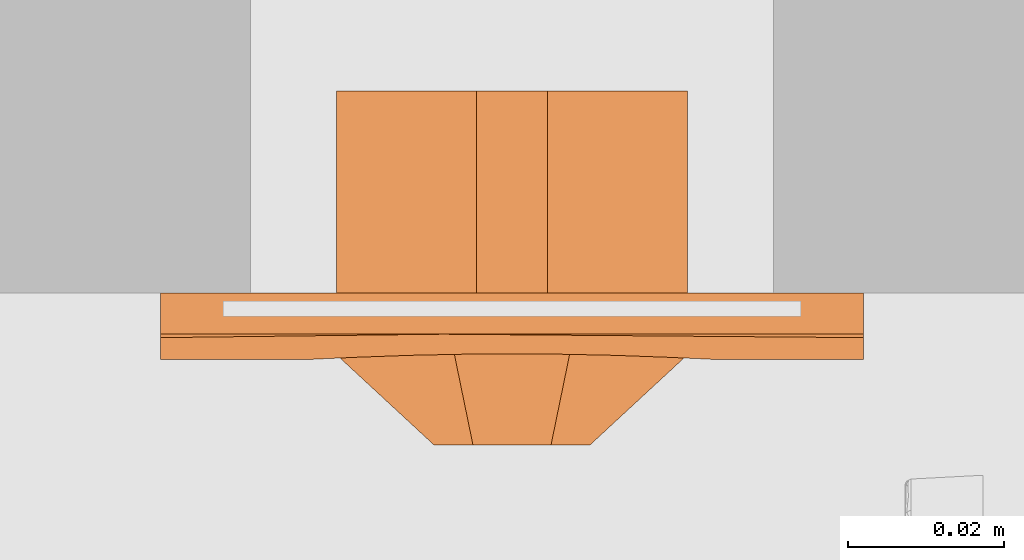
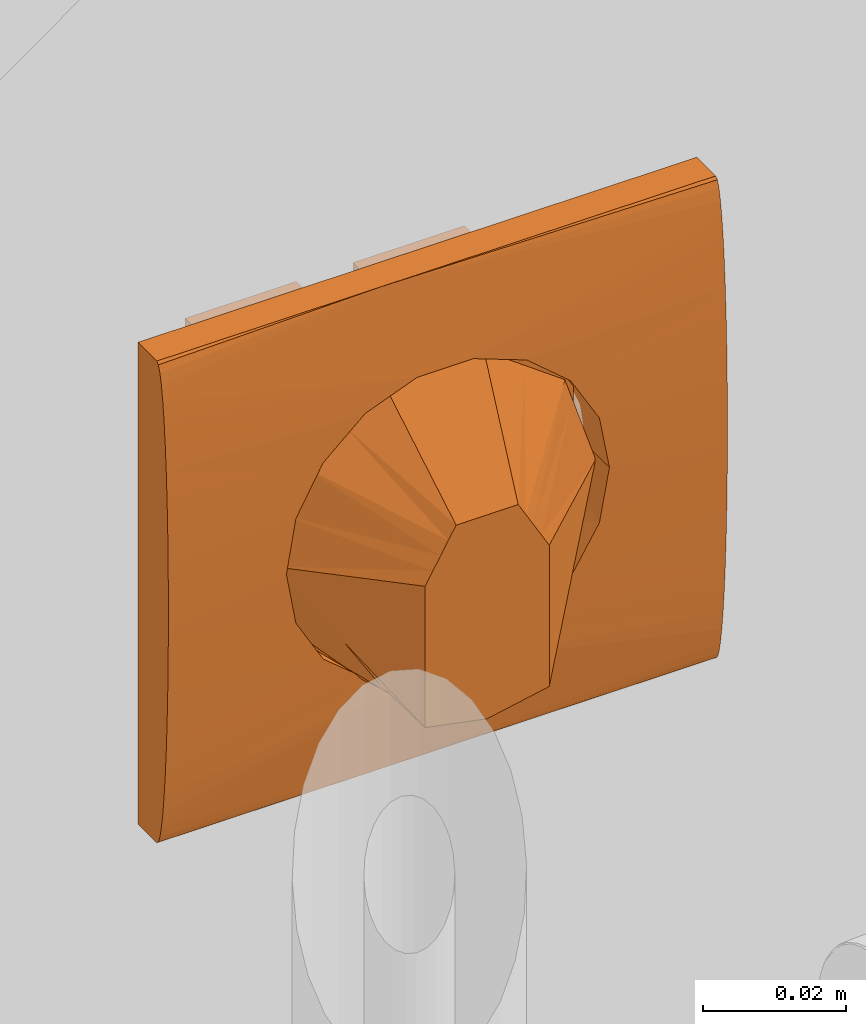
# One storey, part 32 of 32: 2 proxies.
"""IFC2X3 building model written with IfcOpenShell, lengths in metres."""

from ifc_helpers import new_model, entity, si_unit, converted_unit, derived_unit, direction, frame, origin, place, context, subcontext, project, spatial, faceted_brep, source, transform, mapped, material, material_list, type_object, type_shapes, element, save


model = new_model("IFC2X3")

# Units and contexts
model_context = context("Model", 3, precision=1e-05, world=origin(), true_north=direction((6.123031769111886e-17, 1.0)))
body_context = subcontext(model_context, "Body", "Model", "MODEL_VIEW")
ifc_project = project(units=[si_unit("LENGTHUNIT", "METRE"), si_unit("AREAUNIT", "SQUARE_METRE"), si_unit("VOLUMEUNIT", "CUBIC_METRE"), converted_unit("PLANEANGLEUNIT", "DEGREE", entity("IfcPlaneAngleMeasure", 0.017453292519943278), si_unit("PLANEANGLEUNIT", "RADIAN"), dimensions=[0, 0, 0, 0, 0, 0, 0]), si_unit("MASSUNIT", "GRAM", prefix="KILO"), derived_unit("MASSDENSITYUNIT", [(si_unit("MASSUNIT", "GRAM", prefix="KILO"), 1), (si_unit("LENGTHUNIT", "METRE"), -3)]), derived_unit("IONCONCENTRATIONUNIT", [(si_unit("MASSUNIT", "GRAM", prefix="KILO"), 1), (si_unit("LENGTHUNIT", "METRE"), -3)]), derived_unit("MOMENTOFINERTIAUNIT", [(si_unit("LENGTHUNIT", "METRE"), 4)]), si_unit("TIMEUNIT", "SECOND"), si_unit("FREQUENCYUNIT", "HERTZ"), si_unit("THERMODYNAMICTEMPERATUREUNIT", "DEGREE_CELSIUS"), derived_unit("THERMALTRANSMITTANCEUNIT", [(si_unit("MASSUNIT", "GRAM", prefix="KILO"), 1), (si_unit("THERMODYNAMICTEMPERATUREUNIT", "KELVIN"), -1), (si_unit("TIMEUNIT", "SECOND"), -3)]), derived_unit("THERMALCONDUCTANCEUNIT", [(si_unit("MASSUNIT", "GRAM", prefix="KILO"), 1), (si_unit("THERMODYNAMICTEMPERATUREUNIT", "KELVIN"), -1), (si_unit("TIMEUNIT", "SECOND"), -3), (si_unit("LENGTHUNIT", "METRE"), 1)]), derived_unit("VOLUMETRICFLOWRATEUNIT", [(si_unit("LENGTHUNIT", "METRE", prefix="DECI"), 3), (si_unit("TIMEUNIT", "SECOND"), -1)]), derived_unit("MASSFLOWRATEUNIT", [(si_unit("MASSUNIT", "GRAM", prefix="KILO"), 1), (si_unit("TIMEUNIT", "SECOND"), -1)]), derived_unit("ROTATIONALFREQUENCYUNIT", [(si_unit("TIMEUNIT", "SECOND"), -1)]), si_unit("ELECTRICCURRENTUNIT", "AMPERE"), si_unit("ELECTRICVOLTAGEUNIT", "VOLT"), si_unit("POWERUNIT", "WATT"), si_unit("FORCEUNIT", "NEWTON", prefix="KILO"), si_unit("ILLUMINANCEUNIT", "LUX"), si_unit("LUMINOUSFLUXUNIT", "LUMEN"), si_unit("LUMINOUSINTENSITYUNIT", "CANDELA"), si_unit("ENERGYUNIT", "JOULE"), derived_unit("USERDEFINED", [(si_unit("MASSUNIT", "GRAM", prefix="KILO"), -1), (si_unit("LENGTHUNIT", "METRE"), -2), (si_unit("TIMEUNIT", "SECOND"), 3), (si_unit("LUMINOUSFLUXUNIT", "LUMEN"), 1)]), derived_unit("USERDEFINED", [(si_unit("MASSUNIT", "GRAM", prefix="KILO"), 1), (si_unit("TIMEUNIT", "SECOND"), -3), (si_unit("LENGTHUNIT", "METRE"), 3), (si_unit("ELECTRICCURRENTUNIT", "AMPERE"), -2)]), derived_unit("SOUNDPOWERUNIT", [(si_unit("MASSUNIT", "GRAM", prefix="KILO"), 1), (si_unit("TIMEUNIT", "SECOND"), -3), (si_unit("LENGTHUNIT", "METRE"), 2)]), derived_unit("SOUNDPRESSUREUNIT", [(si_unit("MASSUNIT", "GRAM", prefix="KILO"), 1), (si_unit("LENGTHUNIT", "METRE"), -1), (si_unit("TIMEUNIT", "SECOND"), -2)]), derived_unit("LINEARVELOCITYUNIT", [(si_unit("LENGTHUNIT", "METRE"), 1), (si_unit("TIMEUNIT", "SECOND"), -1)]), si_unit("PRESSUREUNIT", "PASCAL"), derived_unit("USERDEFINED", [(si_unit("MASSUNIT", "GRAM", prefix="KILO"), 1), (si_unit("LENGTHUNIT", "METRE"), -2), (si_unit("TIMEUNIT", "SECOND"), -2)]), derived_unit("LINEARFORCEUNIT", [(si_unit("MASSUNIT", "GRAM", prefix="KILO"), 1), (si_unit("TIMEUNIT", "SECOND"), -2)]), derived_unit("PLANARFORCEUNIT", [(si_unit("MASSUNIT", "GRAM", prefix="KILO"), 1), (si_unit("LENGTHUNIT", "METRE"), -1), (si_unit("TIMEUNIT", "SECOND"), -2)]), derived_unit("SPECIFICHEATCAPACITYUNIT", [(si_unit("THERMODYNAMICTEMPERATUREUNIT", "KELVIN"), -1), (si_unit("LENGTHUNIT", "METRE"), 2), (si_unit("TIMEUNIT", "SECOND"), -2)]), derived_unit("HEATFLUXDENSITYUNIT", [(si_unit("MASSUNIT", "GRAM", prefix="KILO"), 1), (si_unit("TIMEUNIT", "SECOND"), -3)]), derived_unit("HEATINGVALUEUNIT", [(si_unit("LENGTHUNIT", "METRE"), 2), (si_unit("TIMEUNIT", "SECOND"), -2)]), derived_unit("VAPORPERMEABILITYUNIT", [(si_unit("LENGTHUNIT", "METRE"), -1), (si_unit("TIMEUNIT", "SECOND"), 1)]), derived_unit("DYNAMICVISCOSITYUNIT", [(si_unit("MASSUNIT", "GRAM", prefix="KILO"), 1), (si_unit("TIMEUNIT", "SECOND"), -1), (si_unit("LENGTHUNIT", "METRE"), -1)]), derived_unit("THERMALEXPANSIONCOEFFICIENTUNIT", [(si_unit("THERMODYNAMICTEMPERATUREUNIT", "KELVIN"), -1)]), derived_unit("MODULUSOFELASTICITYUNIT", [(si_unit("MASSUNIT", "GRAM", prefix="KILO"), 1), (si_unit("LENGTHUNIT", "METRE"), -1), (si_unit("TIMEUNIT", "SECOND"), -2)]), derived_unit("ISOTHERMALMOISTURECAPACITYUNIT", [(si_unit("MASSUNIT", "GRAM", prefix="KILO"), -1), (si_unit("LENGTHUNIT", "METRE"), 3)]), derived_unit("MOISTUREDIFFUSIVITYUNIT", [(si_unit("TIMEUNIT", "SECOND"), -1), (si_unit("LENGTHUNIT", "METRE"), 2)]), derived_unit("MASSPERLENGTHUNIT", [(si_unit("MASSUNIT", "GRAM", prefix="KILO"), 1), (si_unit("LENGTHUNIT", "METRE"), -1)]), derived_unit("THERMALRESISTANCEUNIT", [(si_unit("MASSUNIT", "GRAM", prefix="KILO"), -1), (si_unit("TIMEUNIT", "SECOND"), 3), (si_unit("THERMODYNAMICTEMPERATUREUNIT", "KELVIN"), 1)]), derived_unit("ACCELERATIONUNIT", [(si_unit("LENGTHUNIT", "METRE"), 1), (si_unit("TIMEUNIT", "SECOND"), -2)]), derived_unit("ANGULARVELOCITYUNIT", [(si_unit("TIMEUNIT", "SECOND"), -1), (si_unit("PLANEANGLEUNIT", "RADIAN"), 1)]), derived_unit("LINEARSTIFFNESSUNIT", [(si_unit("MASSUNIT", "GRAM", prefix="KILO"), 1), (si_unit("TIMEUNIT", "SECOND"), -2)]), derived_unit("WARPINGCONSTANTUNIT", [(si_unit("LENGTHUNIT", "METRE"), 6)]), derived_unit("LINEARMOMENTUNIT", [(si_unit("MASSUNIT", "GRAM", prefix="KILO"), 1), (si_unit("LENGTHUNIT", "METRE"), 1), (si_unit("TIMEUNIT", "SECOND"), -2)]), derived_unit("TORQUEUNIT", [(si_unit("MASSUNIT", "GRAM", prefix="KILO"), 1), (si_unit("LENGTHUNIT", "METRE"), 2), (si_unit("TIMEUNIT", "SECOND"), -2)])], contexts=[model_context])

# Site, building, storey
site_placement = place(None, origin())
site = spatial("IfcSite", under=ifc_project, at=site_placement, Name="Default", CompositionType="ELEMENT")
building_placement = place(site_placement, origin())
building = spatial("IfcBuilding", under=site, at=building_placement, CompositionType="ELEMENT")
storey_placement = place(building_placement, origin())
storey = spatial("IfcBuildingStorey", under=building, at=storey_placement, Name="Niveau 0", CompositionType="ELEMENT", Elevation=-1.949160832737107e-14)

# Proxies
ifc_material_1 = material(Name="Plastique, blanc opaque")
ifc_material_2 = material(Name="Plastique, noir opaque")
ifc_material_list = material_list([ifc_material_1, ifc_material_2])
building_element_proxy_type_1 = type_object("IfcBuildingElementProxyType", Name="Legrand Sorties de câbles:Prise courant", PredefinedType="NOTDEFINED", material=ifc_material_list)
shared_shape_1 = source(origin(), body_context, "Body", "Brep", [
    faceted_brep([(0.1312499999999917, 0.11993877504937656, -1.7674673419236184), (0.1324999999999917, 0.11993877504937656, -1.7696324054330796), (0.13374999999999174, 0.11993877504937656, -1.7717974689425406), (0.1349999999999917, 0.11993877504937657, -1.7739625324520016), (0.13499999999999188, 0.11993877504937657, -1.7980031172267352), (0.13257199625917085, 0.11993877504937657, -1.7984879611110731), (0.12999999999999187, 0.11993877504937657, -1.7990015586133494), (0.1274999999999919, 0.11993877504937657, -1.7995007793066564), (0.1262499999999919, 0.11993877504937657, -1.7997503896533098), (0.12499999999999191, 0.11993877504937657, -1.7999999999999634), (0.12374999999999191, 0.11993877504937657, -1.7997503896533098), (0.12249999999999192, 0.11993877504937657, -1.7995007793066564), (0.1199999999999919, 0.11993877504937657, -1.7990015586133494), (0.11742800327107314, 0.11993877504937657, -1.7984879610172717), (0.11499999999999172, 0.11993877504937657, -1.7980031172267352), (0.11499999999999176, 0.11993877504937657, -1.7739625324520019), (0.11624999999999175, 0.11993877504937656, -1.7717974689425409), (0.11749999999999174, 0.11993877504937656, -1.7696324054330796), (0.11874999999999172, 0.11993877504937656, -1.7674673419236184), (0.11999999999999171, 0.11993877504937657, -1.7653022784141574), (0.12249999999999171, 0.11993877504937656, -1.7653022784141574), (0.12499999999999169, 0.11993877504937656, -1.7653022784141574), (0.1274999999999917, 0.11993877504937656, -1.7653022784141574), (0.1299999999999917, 0.11993877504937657, -1.7653022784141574), (0.11899999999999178, 0.10509965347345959, -1.7736158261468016), (0.13100881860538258, 0.10509965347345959, -1.7736158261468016), (0.13100881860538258, 0.10509965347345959, -1.7992971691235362), (0.13543286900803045, 0.10509965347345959, -1.7971340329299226), (0.1413044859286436, 0.10509965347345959, -1.794263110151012), (0.14486650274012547, 0.10509965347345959, -1.7897929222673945), (0.14842851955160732, 0.10509965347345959, -1.7853227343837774), (0.1497329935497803, 0.10509965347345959, -1.7796426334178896), (0.15103746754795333, 0.10509965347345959, -1.7739625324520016), (0.14855111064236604, 0.10509965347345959, -1.7663103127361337), (0.14606475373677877, 0.10509965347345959, -1.7586580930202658), (0.13955538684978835, 0.10509965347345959, -1.7539287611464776), (0.13304601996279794, 0.10509965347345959, -1.7491994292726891), (0.12499999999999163, 0.10509965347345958, -1.7491994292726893), (0.11695398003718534, 0.10509965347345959, -1.7491994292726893), (0.11044461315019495, 0.10509965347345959, -1.7539287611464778), (0.1039352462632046, 0.10509965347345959, -1.7586580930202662), (0.10269206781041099, 0.10509965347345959, -1.7624842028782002), (0.10144888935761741, 0.10509965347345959, -1.7663103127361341), (0.09896253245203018, 0.10509965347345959, -1.7739625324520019), (0.1002698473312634, 0.10509965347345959, -1.7796484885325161), (0.10157716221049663, 0.10509965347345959, -1.7853344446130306), (0.10511994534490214, 0.10509965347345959, -1.7897855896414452), (0.10866272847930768, 0.10509965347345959, -1.7942367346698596), (0.11457764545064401, 0.10509965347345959, -1.7971334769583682), (0.11899999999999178, 0.10509965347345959, -1.7992992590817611), (0.11070364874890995, 0.1159634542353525, -1.79156277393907), (0.10640729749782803, 0.11198813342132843, -1.7851224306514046), (0.11073321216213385, 0.11467883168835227, -1.792373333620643), (0.13100881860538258, 0.1085342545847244, -1.7991906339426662), (0.1366473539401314, 0.11098839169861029, -1.7963444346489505), (0.11899999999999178, 0.10853425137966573, -1.7991930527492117), (0.1133638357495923, 0.11097206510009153, -1.7963554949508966), (0.11936587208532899, 0.11403102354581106, -1.7990939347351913), (0.11744997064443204, 0.11574866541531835, -1.7982196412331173), (0.1204105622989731, 0.11583271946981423, -1.7993660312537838), (0.1392664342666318, 0.11467932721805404, -1.7923735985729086), (0.1392963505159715, 0.11596345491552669, -1.7915627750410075), (0.1435927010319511, 0.11198813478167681, -1.7851224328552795), (0.10453255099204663, 0.1092614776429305, -1.785680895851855), (0.1325405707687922, 0.11575698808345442, -1.7982239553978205), (0.1306342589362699, 0.11403066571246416, -1.7990939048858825), (0.14256159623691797, 0.10975689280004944, -1.7908354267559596), (0.12200277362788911, 0.11716562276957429, -1.7997287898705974), (0.1280007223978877, 0.11716360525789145, -1.7997281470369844), (0.12958879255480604, 0.11583348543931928, -1.7993662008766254), (0.10742241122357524, 0.10974873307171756, -1.7908181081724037), (0.11296266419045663, 0.11447366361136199, -1.7951906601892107), (0.1239564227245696, 0.11787641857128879, -1.799967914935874), (0.13100881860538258, 0.11196786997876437, -1.7990560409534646), (0.12604238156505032, 0.11787662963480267, -1.7999679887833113), (0.14546434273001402, 0.10926461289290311, -1.7856834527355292), (0.13701167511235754, 0.11449847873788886, -1.795208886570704), (0.11899999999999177, 0.11196786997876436, -1.7990588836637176), (0.12075735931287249, 0.11621051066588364, -1.7736158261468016), (0.12199999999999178, 0.11716402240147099, -1.7736158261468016), (0.12344708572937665, 0.11776342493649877, -1.7736158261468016), (0.12499999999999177, 0.11796786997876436, -1.7736158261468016), (0.1265529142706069, 0.11776342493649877, -1.7736158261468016), (0.12799999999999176, 0.11716402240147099, -1.7736158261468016), (0.12924264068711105, 0.11621051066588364, -1.7736158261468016), (0.1301961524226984, 0.11496786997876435, -1.7736158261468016), (0.13079555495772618, 0.11352078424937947, -1.7736158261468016), (0.13100881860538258, 0.11196786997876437, -1.7736158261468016), (0.11899999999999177, 0.11196786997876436, -1.7736158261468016), (0.11920444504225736, 0.11352078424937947, -1.7736158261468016), (0.11980384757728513, 0.11496786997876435, -1.7736158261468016)], [[[0, 1, 2, 3, 4, 5, 6, 7, 8, 9, 10, 11, 12, 13, 14, 15, 16, 17, 18, 19, 20, 21, 22, 23]], [[24, 25, 26, 27, 28, 29, 30, 31, 32, 33, 34, 35, 36, 37, 38, 39, 40, 41, 42, 43, 44, 45, 46, 47, 48, 49]], [[15, 14, 50, 51, 43]], [[13, 52, 14]], [[27, 26, 53]], [[54, 27, 53]], [[55, 48, 56]], [[57, 58, 59]], [[60, 4, 61, 62]], [[43, 51, 63]], [[54, 28, 27]], [[64, 54, 65]], [[54, 66, 29]], [[59, 11, 67]], [[68, 7, 69]], [[64, 65, 69]], [[56, 46, 70]], [[12, 58, 71]], [[67, 10, 72]], [[73, 65, 54]], [[68, 8, 7]], [[55, 49, 48]], [[52, 63, 51]], [[53, 73, 54]], [[48, 47, 56]], [[74, 9, 8]], [[60, 75, 66]], [[13, 71, 52]], [[60, 76, 5]], [[45, 63, 70]], [[55, 56, 77]], [[5, 76, 6]], [[12, 71, 13]], [[67, 11, 10]], [[9, 74, 72]], [[8, 68, 74]], [[72, 10, 9]], [[57, 77, 56]], [[11, 59, 58]], [[54, 64, 76]], [[57, 56, 58]], [[6, 64, 7]], [[76, 60, 66]], [[75, 60, 62]], [[75, 32, 31, 30]], [[32, 75, 62]], [[52, 51, 50, 14]], [[75, 30, 66]], [[29, 28, 54]], [[54, 76, 66]], [[66, 30, 29]], [[70, 63, 52]], [[70, 52, 71]], [[63, 45, 44, 43]], [[71, 56, 70]], [[7, 64, 69]], [[46, 56, 47]], [[46, 45, 70]], [[76, 64, 6]], [[71, 58, 56]], [[11, 58, 12]], [[4, 60, 5]], [[3, 32, 62, 61, 4]], [[35, 0, 23]], [[34, 0, 35]], [[1, 34, 33]], [[34, 1, 0]], [[33, 2, 1]], [[39, 18, 40]], [[36, 23, 22, 21, 20, 19, 38, 37]], [[19, 39, 38]], [[43, 16, 15]], [[3, 2, 32]], [[18, 39, 19]], [[16, 43, 42, 41]], [[32, 2, 33]], [[17, 41, 40]], [[23, 36, 35]], [[16, 41, 17]], [[17, 40, 18]], [[78, 79, 80, 81, 82, 83, 84, 85, 86, 87, 25, 24, 88, 89, 90]], [[86, 65, 73]], [[68, 69, 83]], [[74, 68, 82]], [[85, 69, 65]], [[86, 85, 65]], [[73, 87, 86]], [[84, 83, 69]], [[69, 85, 84]], [[83, 82, 68]], [[82, 81, 74]], [[72, 80, 67]], [[67, 79, 59]], [[77, 57, 89]], [[90, 57, 59]], [[88, 77, 89]], [[80, 79, 67]], [[72, 81, 80]], [[78, 90, 59]], [[59, 79, 78]], [[90, 89, 57]], [[74, 81, 72]], [[55, 77, 88, 24, 49]], [[53, 26, 25, 87, 73]]]),
    faceted_brep([(0.1295689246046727, 0.0746, -1.751462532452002), (0.1295689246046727, 0.0746, -1.7585551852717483), (0.13100881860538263, 0.0746, -1.7599950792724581), (0.13100881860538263, 0.0746, -1.7832874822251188), (0.12499999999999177, 0.0746, -1.7832874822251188), (0.11899118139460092, 0.0746, -1.7832874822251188), (0.11899118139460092, 0.0746, -1.7599950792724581), (0.12043107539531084, 0.0746, -1.7585551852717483), (0.12043107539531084, 0.0746, -1.751462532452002), (0.10249999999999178, 0.0746, -1.751462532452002), (0.10249999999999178, 0.0746, -1.796462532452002), (0.14749999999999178, 0.0746, -1.796462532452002), (0.14749999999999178, 0.0746, -1.751462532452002), (0.1295689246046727, 0.10509965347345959, -1.751462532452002), (0.14749999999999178, 0.10509965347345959, -1.751462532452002), (0.14749999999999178, 0.10509965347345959, -1.796462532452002), (0.10249999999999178, 0.10509965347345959, -1.796462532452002), (0.10249999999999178, 0.10509965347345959, -1.751462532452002), (0.12043107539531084, 0.10509965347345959, -1.751462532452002), (0.12043107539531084, 0.10509965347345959, -1.7585551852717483), (0.11899118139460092, 0.10509965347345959, -1.7599950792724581), (0.11899118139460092, 0.10509965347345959, -1.7832874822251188), (0.12499999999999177, 0.10509965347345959, -1.7832874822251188), (0.13100881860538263, 0.10509965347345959, -1.7832874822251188), (0.13100881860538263, 0.10509965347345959, -1.7599950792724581), (0.1295689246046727, 0.10509965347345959, -1.7585551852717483)], [[[0, 1, 2, 3, 4, 5, 6, 7, 8, 9, 10, 11, 12]], [[13, 14, 15, 16, 17, 18, 19, 20, 21, 22, 23, 24, 25]], [[10, 9, 17, 16]], [[11, 10, 16, 15]], [[12, 11, 15, 14]], [[0, 12, 14, 13]], [[1, 0, 13, 25]], [[2, 1, 25, 24]], [[3, 2, 24, 23]], [[4, 3, 23, 22]], [[5, 4, 22, 21]], [[6, 5, 21, 20]], [[7, 6, 20, 19]], [[8, 7, 19, 18]], [[9, 8, 18, 17]]]),
])
type_shapes(building_element_proxy_type_1, [shared_shape_1])
proxy_1_placement = place(storey_placement, frame((-14.451077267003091, 2.969026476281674, 3.823962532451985), z_axis=(0.0, 0.0, 1.0), x_axis=(-1.0, 0.0, 0.0)))
element("IfcBuildingElementProxy", 1, at=proxy_1_placement, inside=storey, type_object=building_element_proxy_type_1, material=ifc_material_list, Name="Legrand Sorties de câbles:Prise courant", ObjectType="Legrand Sorties de câbles:Prise courant", context=body_context, shape_type="MappedRepresentation", body=[
    mapped(shared_shape_1, transform((0.0, 0.0, 0.0), scale=1.0)),
])
building_element_proxy_type_2 = type_object("IfcBuildingElementProxyType", Name="Legrand plaque2:1 poste", PredefinedType="NOTDEFINED", material=ifc_material_1)
shared_shape_2 = source(origin(), body_context, "Body", "Brep", [
    faceted_brep([(0.1699999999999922, 0.10663792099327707, -1.7972310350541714), (0.1699999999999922, 0.10705393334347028, -1.7953570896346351), (0.1699999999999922, 0.10744593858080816, -1.7927826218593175), (0.1699999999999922, 0.10780663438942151, -1.7895555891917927), (0.1699999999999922, 0.10812930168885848, -1.7857361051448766), (0.1699999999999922, 0.1084079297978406, -1.781395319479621), (0.1699999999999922, 0.10863732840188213, -1.7766140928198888), (0.1699999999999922, 0.10881322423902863, -1.771481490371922), (0.1699999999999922, 0.10893234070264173, -1.7660931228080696), (0.1699999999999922, 0.10899245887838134, -1.760549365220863), (0.1699999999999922, 0.10899245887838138, -1.7549534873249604), (0.1699999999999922, 0.10893234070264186, -1.7494097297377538), (0.1699999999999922, 0.10881322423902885, -1.7440213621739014), (0.1699999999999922, 0.10863732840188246, -1.7388887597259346), (0.1699999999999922, 0.108407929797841, -1.7341075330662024), (0.1699999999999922, 0.10812930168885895, -1.7297667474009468), (0.1699999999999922, 0.10780663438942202, -1.7259472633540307), (0.1699999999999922, 0.10744593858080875, -1.7227202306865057), (0.1699999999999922, 0.10705393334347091, -1.720145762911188), (0.1699999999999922, 0.10663792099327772, -1.718271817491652), (0.1699999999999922, 0.10620565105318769, -1.717133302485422), (0.1699999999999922, 0.10576517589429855, -1.7167514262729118), (0.1699999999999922, 0.10050000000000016, -1.7167514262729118), (0.1699999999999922, 0.10050000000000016, -1.7987514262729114), (0.1699999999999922, 0.10576517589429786, -1.7987514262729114), (0.1699999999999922, 0.10620565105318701, -1.7983695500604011), (0.07999999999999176, 0.10893234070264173, -1.7660931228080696), (0.07999999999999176, 0.10881322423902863, -1.771481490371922), (0.07999999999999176, 0.10863732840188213, -1.7766140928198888), (0.07999999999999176, 0.1084079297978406, -1.781395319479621), (0.07999999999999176, 0.10812930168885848, -1.7857361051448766), (0.07999999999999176, 0.10780663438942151, -1.7895555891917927), (0.07999999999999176, 0.10744593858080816, -1.7927826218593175), (0.07999999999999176, 0.10705393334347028, -1.7953570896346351), (0.07999999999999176, 0.10663792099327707, -1.7972310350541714), (0.07999999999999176, 0.10620565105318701, -1.7983695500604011), (0.07999999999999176, 0.10576517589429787, -1.7987514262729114), (0.07999999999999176, 0.10050000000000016, -1.7987514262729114), (0.07999999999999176, 0.10050000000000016, -1.7167514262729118), (0.07999999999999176, 0.10576517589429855, -1.7167514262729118), (0.07999999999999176, 0.10620565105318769, -1.717133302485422), (0.07999999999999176, 0.10663792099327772, -1.718271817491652), (0.07999999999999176, 0.10705393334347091, -1.720145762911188), (0.07999999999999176, 0.10744593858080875, -1.7227202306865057), (0.07999999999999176, 0.10780663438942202, -1.7259472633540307), (0.07999999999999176, 0.10812930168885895, -1.7297667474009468), (0.07999999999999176, 0.108407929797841, -1.7341075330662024), (0.07999999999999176, 0.10863732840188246, -1.7388887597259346), (0.07999999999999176, 0.10881322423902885, -1.7440213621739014), (0.07999999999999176, 0.10893234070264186, -1.7494097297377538), (0.07999999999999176, 0.10899245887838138, -1.7549534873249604), (0.07999999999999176, 0.10899245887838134, -1.760549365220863), (0.13383419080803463, 0.10576517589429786, -1.7987514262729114), (0.1295157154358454, 0.10829163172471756, -1.783356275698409), (0.12048889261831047, 0.10829158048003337, -1.7833570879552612), (0.1338341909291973, 0.10576517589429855, -1.7167514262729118), (0.13799797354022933, 0.10846845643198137, -1.7802692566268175), (0.14491763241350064, 0.10871907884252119, -1.7744633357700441), (0.14942915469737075, 0.10892286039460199, -1.7666517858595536), (0.14145780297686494, 0.10859376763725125, -1.7773662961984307), (0.15021457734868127, 0.10896143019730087, -1.7622016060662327), (0.15099999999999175, 0.10899999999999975, -1.7577514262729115), (0.11200101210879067, 0.10846848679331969, -1.7802686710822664), (0.11624495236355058, 0.10838003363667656, -1.7818128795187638), (0.10057214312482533, 0.10892279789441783, -1.7666553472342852), (0.10509052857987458, 0.1087187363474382, -1.774473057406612), (0.09899999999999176, 0.10899999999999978, -1.7577514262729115), (0.09978607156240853, 0.1089613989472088, -1.7622033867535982), (0.14942915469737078, 0.10892286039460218, -1.7488510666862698), (0.14491763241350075, 0.10871907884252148, -1.7410395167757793), (0.14145780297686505, 0.10859376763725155, -1.7381365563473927), (0.1379979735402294, 0.10846845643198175, -1.7352335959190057), (0.12951571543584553, 0.10829163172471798, -1.7321465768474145), (0.1005721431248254, 0.10892279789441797, -1.748847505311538), (0.09978607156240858, 0.10896139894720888, -1.7532994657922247), (0.10509052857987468, 0.10871873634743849, -1.741029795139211), (0.1120010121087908, 0.10846848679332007, -1.735234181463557), (0.12048889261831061, 0.10829158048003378, -1.7321457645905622), (0.11624495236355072, 0.10838003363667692, -1.7336899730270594), (0.15021457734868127, 0.10896143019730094, -1.7533012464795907), (0.14751666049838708, 0.10050000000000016, -1.7447514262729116), (0.1501140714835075, 0.10050000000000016, -1.7510221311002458), (0.1433847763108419, 0.10050000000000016, -1.7393666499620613), (0.15099999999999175, 0.10050000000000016, -1.757751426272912), (0.13799999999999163, 0.10050000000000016, -1.7352347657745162), (0.13172929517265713, 0.10050000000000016, -1.7326373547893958), (0.12499999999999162, 0.10050000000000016, -1.7317514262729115), (0.11827070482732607, 0.10050000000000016, -1.7326373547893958), (0.11199999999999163, 0.10050000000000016, -1.7352347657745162), (0.10661522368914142, 0.10050000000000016, -1.7393666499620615), (0.10248333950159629, 0.10050000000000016, -1.7447514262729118), (0.09988592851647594, 0.10050000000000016, -1.7510221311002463), (0.09899999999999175, 0.10050000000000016, -1.757751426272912), (0.09988592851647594, 0.10050000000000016, -1.764480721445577), (0.10248333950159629, 0.10050000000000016, -1.7707514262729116), (0.10661522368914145, 0.10050000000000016, -1.7761362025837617), (0.11199999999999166, 0.10050000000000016, -1.780268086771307), (0.11827070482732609, 0.10050000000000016, -1.7828654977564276), (0.12499999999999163, 0.10050000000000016, -1.7837514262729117), (0.1501140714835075, 0.10050000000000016, -1.7644807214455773), (0.1475166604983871, 0.10050000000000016, -1.7707514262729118), (0.1433847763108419, 0.10050000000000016, -1.776136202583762), (0.13799999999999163, 0.10050000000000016, -1.7802680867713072), (0.1317292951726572, 0.10050000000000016, -1.7828654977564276)], [[[0, 1, 2, 3, 4, 5, 6, 7, 8, 9, 10, 11, 12, 13, 14, 15, 16, 17, 18, 19, 20, 21, 22, 23, 24, 25]], [[26, 27, 28, 29, 30, 31, 32, 33, 34, 35, 36, 37, 38, 39, 40, 41, 42, 43, 44, 45, 46, 47, 48, 49, 50, 51]], [[24, 23, 37, 36, 52]], [[0, 52, 1]], [[53, 1, 52]], [[54, 53, 52]], [[3, 2, 53]], [[55, 42, 41]], [[56, 5, 4]], [[56, 4, 3]], [[1, 53, 2]], [[7, 6, 57]], [[8, 7, 58]], [[9, 8, 58]], [[5, 56, 59, 57]], [[9, 58, 60, 61]], [[58, 7, 57]], [[61, 10, 9]], [[6, 5, 57]], [[3, 53, 56]], [[55, 21, 20]], [[39, 55, 40]], [[54, 32, 31]], [[31, 62, 63, 54]], [[30, 62, 31]], [[54, 33, 32]], [[52, 36, 35]], [[52, 25, 24]], [[35, 34, 52]], [[52, 34, 33]], [[0, 25, 52]], [[30, 29, 62]], [[27, 64, 65]], [[29, 65, 62]], [[65, 29, 28]], [[27, 26, 64]], [[65, 28, 27]], [[64, 26, 51]], [[51, 66, 67, 64]], [[33, 54, 52]], [[12, 11, 68]], [[13, 12, 69]], [[14, 13, 69]], [[68, 11, 10]], [[69, 12, 68]], [[14, 69, 70, 71]], [[71, 15, 14]], [[19, 55, 20]], [[18, 17, 72]], [[41, 40, 55]], [[72, 16, 71]], [[15, 71, 16]], [[72, 17, 16]], [[19, 18, 55]], [[50, 73, 74, 66]], [[46, 75, 47]], [[48, 75, 73]], [[49, 73, 50]], [[48, 73, 49]], [[48, 47, 75]], [[46, 76, 75]], [[51, 50, 66]], [[46, 45, 76]], [[44, 77, 78, 76]], [[44, 76, 45]], [[44, 43, 77]], [[72, 77, 55]], [[43, 42, 77]], [[18, 72, 55]], [[55, 77, 42]], [[10, 61, 79, 68]], [[22, 21, 55, 39, 38]], [[22, 80, 81]], [[80, 22, 82]], [[22, 81, 83]], [[84, 82, 22]], [[85, 84, 22]], [[86, 85, 22]], [[22, 38, 86]], [[83, 23, 22]], [[87, 86, 38]], [[88, 87, 38]], [[89, 88, 38]], [[38, 90, 89]], [[90, 38, 91]], [[92, 91, 38]], [[38, 37, 92]], [[93, 92, 37]], [[94, 93, 37]], [[37, 95, 94]], [[95, 37, 96]], [[97, 96, 37]], [[98, 97, 37]], [[98, 37, 23]], [[23, 83, 99]], [[23, 99, 100]], [[100, 101, 23]], [[101, 102, 23]], [[102, 103, 23]], [[23, 103, 98]], [[93, 64, 67]], [[93, 67, 92]], [[97, 54, 63]], [[97, 63, 96]], [[65, 64, 94]], [[83, 61, 60]], [[62, 65, 95]], [[93, 94, 64]], [[92, 67, 66]], [[95, 96, 62]], [[65, 94, 95]], [[56, 102, 59]], [[97, 98, 54]], [[62, 96, 63]], [[101, 57, 59]], [[101, 59, 102]], [[56, 53, 103]], [[60, 58, 99]], [[100, 58, 57]], [[103, 102, 56]], [[53, 98, 103]], [[101, 100, 57]], [[99, 83, 60]], [[100, 99, 58]], [[54, 98, 53]], [[81, 68, 79]], [[70, 69, 82]], [[91, 92, 74]], [[85, 72, 71]], [[69, 68, 80]], [[70, 84, 71]], [[81, 80, 68]], [[83, 79, 61]], [[84, 70, 82]], [[69, 80, 82]], [[84, 85, 71]], [[85, 86, 72]], [[81, 79, 83]], [[78, 77, 87]], [[75, 76, 89]], [[78, 88, 76]], [[74, 73, 91]], [[90, 73, 75]], [[92, 66, 74]], [[88, 78, 87]], [[77, 86, 87]], [[89, 90, 75]], [[76, 88, 89]], [[90, 91, 73]], [[72, 86, 77]]]),
])
type_shapes(building_element_proxy_type_2, [shared_shape_2])
proxy_2_placement = place(storey_placement, frame((-14.451077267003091, 2.969026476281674, 3.8087514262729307), z_axis=(0.0, 0.0, 1.0), x_axis=(-1.0, 0.0, 0.0)))
element("IfcBuildingElementProxy", 2, at=proxy_2_placement, inside=storey, type_object=building_element_proxy_type_2, material=ifc_material_1, Name="Legrand plaque2:1 poste", ObjectType="Legrand plaque2:1 poste", context=body_context, shape_type="MappedRepresentation", body=[
    mapped(shared_shape_2, transform((0.0, 0.0, 0.0), scale=1.0)),
])

save(model, "model.ifc")
